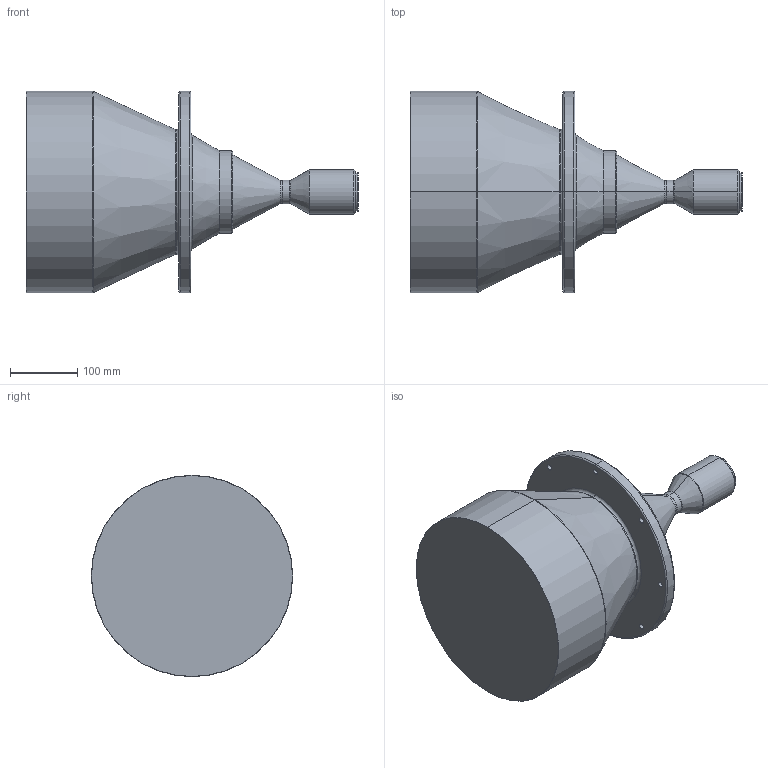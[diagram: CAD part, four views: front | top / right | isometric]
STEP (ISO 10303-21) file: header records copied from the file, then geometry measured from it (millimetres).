
FILE_DESCRIPTION (( 'STEP AP203' ), '1' );
FILE_NAME ('DTCM430-258-M58-AL.STEP', '2019-11-25T09:38:13', ( 'Windows 蚚誧' ), ( '' ), 'SwSTEP 2.0', 'SolidWorks 2017', '' );
FILE_SCHEMA (( 'CONFIG_CONTROL_DESIGN' ));
Length unit declared in the file: millimetre
Products named in the file (1): DTCM430-258-M58-AL
Bounding box: 494.5 x 300 x 300 mm (x, y, z)
Volume: 15852606.8 mm3; surface area: 454828.3 mm2
Topology: 1 solids, 1 shells, 73 faces, 160 edges, 96 vertices
Faces by surface type: cylinder 34, torus 16, cone 14, plane 9
Entity records: 2139 total; most frequent: DIRECTION 420, CARTESIAN_POINT 330, ORIENTED_EDGE 320, AXIS2_PLACEMENT_3D 186, EDGE_CURVE 160, CIRCLE 112, EDGE_LOOP 96, VERTEX_POINT 96
